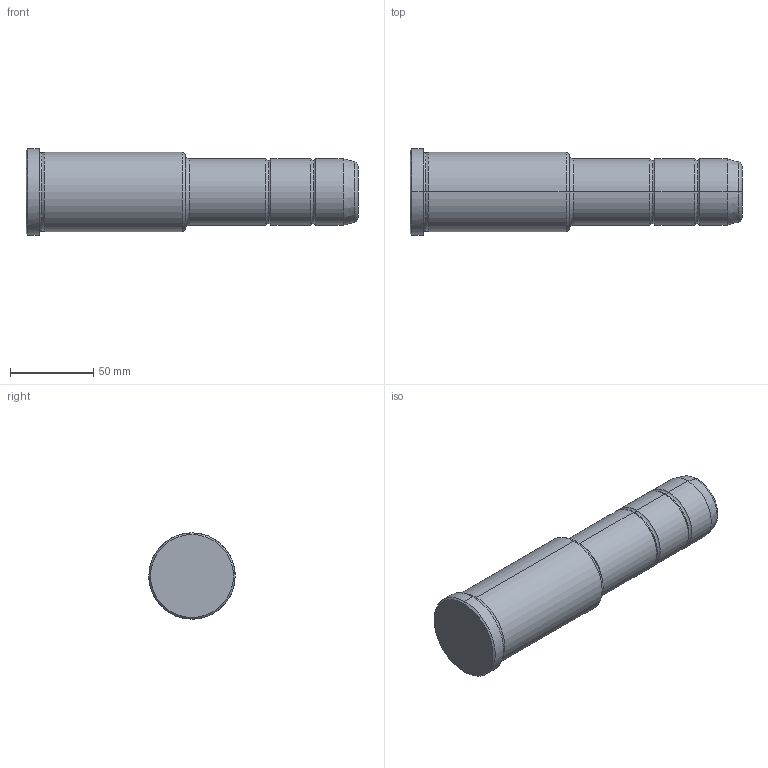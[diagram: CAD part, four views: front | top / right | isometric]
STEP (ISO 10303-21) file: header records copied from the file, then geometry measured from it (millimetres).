
FILE_DESCRIPTION(('CATIA V5 STEP Exchange'),'2;1');
FILE_NAME('C:\Users\Utente\Desktop\IO LAVORO\3D X SITO CF\X SITO\PLASTICA\351\351-40X96X200.stp','2021-10-07T14:09:40+00:00',('none'),('none'),'CATIA Version 5 Release 20 GA (IN-10)','CATIA V5 STEP AP203','none');
FILE_SCHEMA(('CONFIG_CONTROL_DESIGN'));
Length unit declared in the file: millimetre
Products named in the file (1): 351-40X96X200
Bounding box: 200 x 52 x 52 mm (x, y, z)
Volume: 304737.2 mm3; surface area: 31341.4 mm2
Topology: 1 solids, 1 shells, 36 faces, 102 edges, 70 vertices
Faces by surface type: torus 16, cylinder 10, cone 6, plane 4
Entity records: 1292 total; most frequent: CARTESIAN_POINT 321, ORIENTED_EDGE 204, DIRECTION 166, AXIS2_PLACEMENT_3D 115, EDGE_CURVE 102, CIRCLE 78, VERTEX_POINT 70, EDGE_LOOP 38
